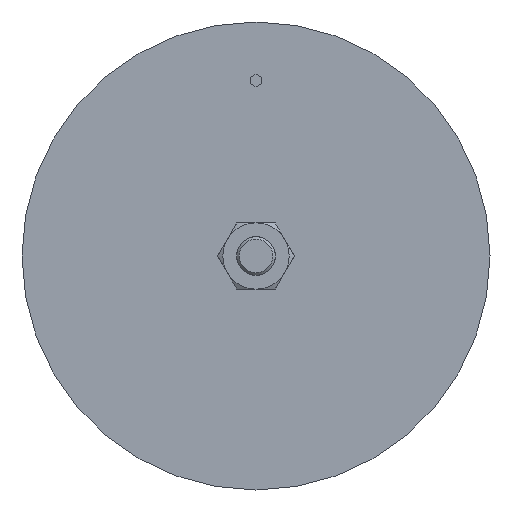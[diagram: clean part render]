
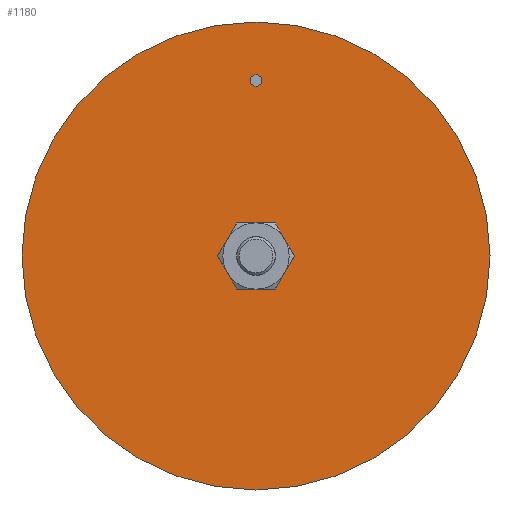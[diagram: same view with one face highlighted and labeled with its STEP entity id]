
A CAD part, front view. The second image highlights one B-rep face of the part: STEP entity #1180.
In plain terms, the highlighted planar face has unit normal (0, -1, 0).
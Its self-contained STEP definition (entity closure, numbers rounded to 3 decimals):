
#35=FACE_BOUND('',#297,.T.);
#36=FACE_BOUND('',#298,.T.);
#107=PLANE('',#1366);
#207=FACE_OUTER_BOUND('',#296,.T.);
#296=EDGE_LOOP('',(#1059));
#297=EDGE_LOOP('',(#1060));
#298=EDGE_LOOP('',(#1061));
#486=CIRCLE('',#1339,1.5);
#488=CIRCLE('',#1342,5.25);
#501=CIRCLE('',#1367,60.);
#588=VERTEX_POINT('',#2078);
#590=VERTEX_POINT('',#2084);
#603=VERTEX_POINT('',#2128);
#736=EDGE_CURVE('',#588,#588,#486,.T.);
#739=EDGE_CURVE('',#590,#590,#488,.T.);
#758=EDGE_CURVE('',#603,#603,#501,.T.);
#1059=ORIENTED_EDGE('',*,*,#758,.F.);
#1060=ORIENTED_EDGE('',*,*,#736,.T.);
#1061=ORIENTED_EDGE('',*,*,#739,.T.);
#1180=ADVANCED_FACE('',(#207,#35,#36),#107,.T.);
#1339=AXIS2_PLACEMENT_3D('',#2079,#1656,#1657);
#1342=AXIS2_PLACEMENT_3D('',#2085,#1663,#1664);
#1366=AXIS2_PLACEMENT_3D('',#2127,#1717,#1718);
#1367=AXIS2_PLACEMENT_3D('',#2129,#1719,#1720);
#1656=DIRECTION('center_axis',(0.,1.,0.));
#1657=DIRECTION('ref_axis',(1.,0.,0.));
#1663=DIRECTION('center_axis',(0.,1.,0.));
#1664=DIRECTION('ref_axis',(1.,0.,0.));
#1717=DIRECTION('center_axis',(0.,-1.,0.));
#1718=DIRECTION('ref_axis',(0.,0.,-1.));
#1719=DIRECTION('center_axis',(0.,1.,0.));
#1720=DIRECTION('ref_axis',(1.,0.,0.));
#2078=CARTESIAN_POINT('',(-1.5,-54.6,45.));
#2079=CARTESIAN_POINT('Origin',(0.,-54.6,45.));
#2084=CARTESIAN_POINT('',(-5.25,-54.6,0.));
#2085=CARTESIAN_POINT('Origin',(0.,-54.6,0.));
#2127=CARTESIAN_POINT('Origin',(0.,-54.6,60.));
#2128=CARTESIAN_POINT('',(0.,-54.6,-60.));
#2129=CARTESIAN_POINT('Origin',(0.,-54.6,0.));
